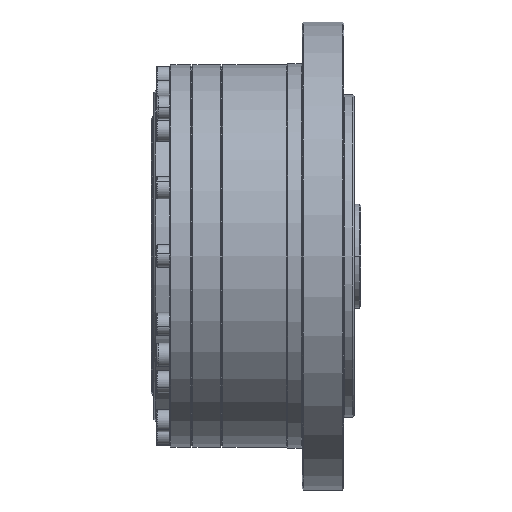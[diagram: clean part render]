
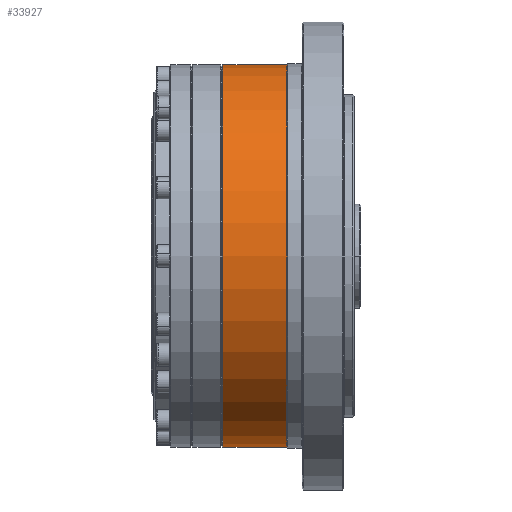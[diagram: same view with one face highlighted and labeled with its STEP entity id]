
A CAD part, front view. The second image highlights one B-rep face of the part: STEP entity #33927.
In plain terms, the highlighted cylindrical face has radius 73.5 mm (diameter 147 mm), a partial arc.
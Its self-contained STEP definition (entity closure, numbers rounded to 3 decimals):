
#402 = DIRECTION ( 'NONE',  ( 0., 0., -1. ) ) ;
#2825 = ORIENTED_EDGE ( 'NONE', *, *, #29152, .T. ) ;
#2892 = VERTEX_POINT ( 'NONE', #14241 ) ;
#3036 = CARTESIAN_POINT ( 'NONE',  ( 25., 0., 73.5 ) ) ;
#4851 = DIRECTION ( 'NONE',  ( 1., 0., 0. ) ) ;
#5031 = FACE_OUTER_BOUND ( 'NONE', #22289, .T. ) ;
#5812 = LINE ( 'NONE', #22064, #20203 ) ;
#6703 = DIRECTION ( 'NONE',  ( 1., 0., 0. ) ) ;
#7078 = VERTEX_POINT ( 'NONE', #12283 ) ;
#8234 = DIRECTION ( 'NONE',  ( 1., 0., 0. ) ) ;
#9156 = ORIENTED_EDGE ( 'NONE', *, *, #18684, .F. ) ;
#9908 = ORIENTED_EDGE ( 'NONE', *, *, #31545, .F. ) ;
#11775 = AXIS2_PLACEMENT_3D ( 'NONE', #25406, #8234, #28283 ) ;
#12283 = CARTESIAN_POINT ( 'NONE',  ( 0.5, 0., 73.5 ) ) ;
#13678 = CIRCLE ( 'NONE', #11775, 73.5 ) ;
#13699 = CARTESIAN_POINT ( 'NONE',  ( 25., 0., -73.5 ) ) ;
#14241 = CARTESIAN_POINT ( 'NONE',  ( 0.5, 0., -73.5 ) ) ;
#15850 = VECTOR ( 'NONE', #36208, 1000. ) ;
#17601 = DIRECTION ( 'NONE',  ( 1., 0., 0. ) ) ;
#18560 = ORIENTED_EDGE ( 'NONE', *, *, #35310, .T. ) ;
#18684 = EDGE_CURVE ( 'NONE', #7078, #21808, #24400, .T. ) ;
#20203 = VECTOR ( 'NONE', #4851, 1000. ) ;
#21808 = VERTEX_POINT ( 'NONE', #3036 ) ;
#22064 = CARTESIAN_POINT ( 'NONE',  ( 57.5, 0., -73.5 ) ) ;
#22289 = EDGE_LOOP ( 'NONE', ( #9156, #2825, #18560, #9908 ) ) ;
#24400 = LINE ( 'NONE', #33356, #15850 ) ;
#25406 = CARTESIAN_POINT ( 'NONE',  ( 0.5, 0., 0. ) ) ;
#28283 = DIRECTION ( 'NONE',  ( 0., 0., -1. ) ) ;
#29152 = EDGE_CURVE ( 'NONE', #7078, #2892, #13678, .T. ) ;
#29628 = AXIS2_PLACEMENT_3D ( 'NONE', #34766, #17601, #402 ) ;
#29666 = DIRECTION ( 'NONE',  ( 0., 0., -1. ) ) ;
#31361 = AXIS2_PLACEMENT_3D ( 'NONE', #32569, #6703, #29666 ) ;
#31545 = EDGE_CURVE ( 'NONE', #21808, #35938, #33424, .T. ) ;
#32569 = CARTESIAN_POINT ( 'NONE',  ( 57.5, 0., 0. ) ) ;
#32865 = CYLINDRICAL_SURFACE ( 'NONE', #31361, 73.5 ) ;
#33356 = CARTESIAN_POINT ( 'NONE',  ( 57.5, 0., 73.5 ) ) ;
#33424 = CIRCLE ( 'NONE', #29628, 73.5 ) ;
#33927 = ADVANCED_FACE ( 'NONE', ( #5031 ), #32865, .T. ) ;
#34766 = CARTESIAN_POINT ( 'NONE',  ( 25., 0., 0. ) ) ;
#35310 = EDGE_CURVE ( 'NONE', #2892, #35938, #5812, .T. ) ;
#35938 = VERTEX_POINT ( 'NONE', #13699 ) ;
#36208 = DIRECTION ( 'NONE',  ( 1., 0., 0. ) ) ;
